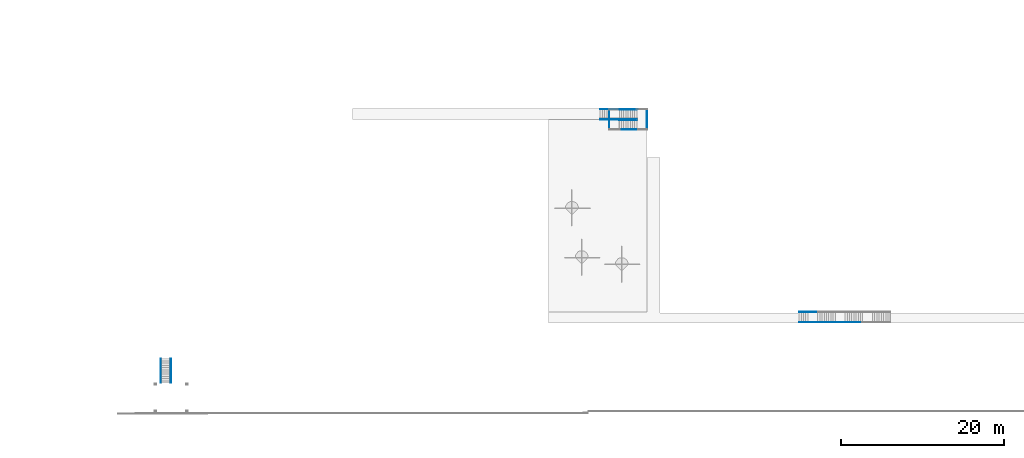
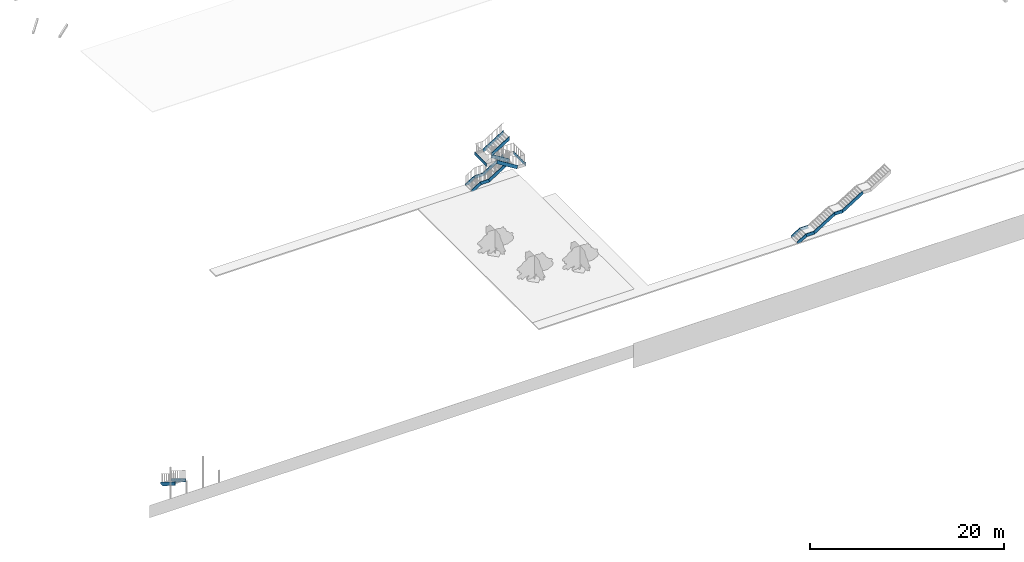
# One storey, part 1 of 16: 21 members, 3 elements without a shape of their own.
"""IFC2X3 building model written with IfcOpenShell, lengths in millimetres."""

from ifc_helpers import new_model, entity, si_unit, converted_unit, derived_unit, direction, frame, origin, place, context, subcontext, project, spatial, polyline, outline, extrude, type_object, element, aggregate, save


model = new_model("IFC2X3")

# Units and contexts
model_context = context("Model", 3, precision=0.01, world=origin(), true_north=direction((4.05803320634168e-15, -1.0)))
body_context = subcontext(model_context, "Body", "Model", "MODEL_VIEW")
ifc_project = project(units=[si_unit("LENGTHUNIT", "METRE", prefix="MILLI"), si_unit("AREAUNIT", "SQUARE_METRE"), si_unit("VOLUMEUNIT", "CUBIC_METRE"), converted_unit("PLANEANGLEUNIT", "DEGREE", entity("IfcRatioMeasure", 0.0174532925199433), si_unit("PLANEANGLEUNIT", "RADIAN"), dimensions=[0, 0, 0, 0, 0, 0, 0]), si_unit("MASSUNIT", "GRAM", prefix="KILO"), derived_unit("MASSDENSITYUNIT", [(si_unit("MASSUNIT", "GRAM", prefix="KILO"), 1), (si_unit("LENGTHUNIT", "METRE"), -3)]), si_unit("TIMEUNIT", "SECOND"), si_unit("FREQUENCYUNIT", "HERTZ"), si_unit("THERMODYNAMICTEMPERATUREUNIT", "DEGREE_CELSIUS"), derived_unit("THERMALTRANSMITTANCEUNIT", [(si_unit("MASSUNIT", "GRAM", prefix="KILO"), 1), (si_unit("THERMODYNAMICTEMPERATUREUNIT", "KELVIN"), -1), (si_unit("TIMEUNIT", "SECOND"), -3)]), derived_unit("VOLUMETRICFLOWRATEUNIT", [(si_unit("LENGTHUNIT", "METRE"), 3), (si_unit("TIMEUNIT", "SECOND"), -1)]), si_unit("ELECTRICCURRENTUNIT", "AMPERE"), si_unit("ELECTRICVOLTAGEUNIT", "VOLT"), si_unit("POWERUNIT", "WATT"), si_unit("FORCEUNIT", "NEWTON", prefix="KILO"), si_unit("ILLUMINANCEUNIT", "LUX"), si_unit("LUMINOUSFLUXUNIT", "LUMEN"), si_unit("LUMINOUSINTENSITYUNIT", "CANDELA"), derived_unit("USERDEFINED", [(si_unit("MASSUNIT", "GRAM", prefix="KILO"), -1), (si_unit("LENGTHUNIT", "METRE"), -2), (si_unit("TIMEUNIT", "SECOND"), 3), (si_unit("LUMINOUSFLUXUNIT", "LUMEN"), 1)]), derived_unit("LINEARVELOCITYUNIT", [(si_unit("LENGTHUNIT", "METRE"), 1), (si_unit("TIMEUNIT", "SECOND"), -1)]), si_unit("PRESSUREUNIT", "PASCAL"), derived_unit("USERDEFINED", [(si_unit("LENGTHUNIT", "METRE"), -2), (si_unit("MASSUNIT", "GRAM", prefix="KILO"), 1), (si_unit("TIMEUNIT", "SECOND"), -2)])], contexts=[model_context])

# Site, building, storey
site_placement = place(None, frame((927466.849349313, 583801.882853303, 0.0), z_axis=(0.0, 0.0, 1.0), x_axis=(-1.0, 0.0, 0.0)))
site = spatial("IfcSite", under=ifc_project, at=site_placement, Name="Surface", CompositionType="ELEMENT")
building_placement = place(site_placement, origin())
building = spatial("IfcBuilding", under=site, at=building_placement, CompositionType="ELEMENT")
storey_placement = place(building_placement, frame((0.0, 0.0, 42810.0)))
storey = spatial("IfcBuildingStorey", under=building, at=storey_placement, Name="Hardstand", CompositionType="ELEMENT", Elevation=42810.0)

# Stair, members
stair_1_placement = place(storey_placement, origin())
stair_1 = element("IfcStair", 1, at=stair_1_placement, inside=storey, Name="Assembled Stair:Stair", ObjectType="Assembled Stair:170mm max riser 270mm going", ShapeType="NOTDEFINED")
member_type = type_object("IfcMemberType", Name="Stringer:Stringer - 50mm Width", PredefinedType="STRINGER")
member_1_placement = place(stair_1_placement, origin())
member_1 = element("IfcMember", 2, at=member_1_placement, type_object=member_type, Name="Assembled Stair:Stair:622611 Stringer 4", ObjectType="Assembled Stair:170mm max riser 270mm going", context=body_context, shape_type="SweptSolid", body=[
    extrude(outline(polyline([(-1486.81096434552, -200.0), (1372.81422962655, -200.0), (1486.81096434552, 200.0), (-1372.81422962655, 200.0), (-1486.81096434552, -200.0)])), frame((-104429.331308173, 38178.2777512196, 2948.75), z_axis=(0.0, 1.0, 0.0), x_axis=(-0.849761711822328, 0.0, 0.527166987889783)), (0.0, 0.0, 1.0), 50.0000000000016),
])
member_2_placement = place(stair_1_placement, origin())
member_2 = element("IfcMember", 3, at=member_2_placement, type_object=member_type, Name="Assembled Stair:Stair:622611 Stringer 8", ObjectType="Assembled Stair:170mm max riser 270mm going", context=body_context, shape_type="SweptSolid", body=[
    extrude(outline(polyline([(-1486.81096434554, -200.0), (1372.81422962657, -200.0), (1486.81096434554, 200.0), (-1372.81422962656, 200.0), (-1486.81096434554, -200.0)])), frame((-101069.331308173, 38178.2777512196, 1441.25), z_axis=(0.0, 1.0, 0.0), x_axis=(-0.849761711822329, 0.0, 0.527166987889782)), (0.0, 0.0, 1.0), 50.0000000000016),
])
member_3_placement = place(stair_1_placement, origin())
member_3 = element("IfcMember", 4, at=member_3_placement, type_object=member_type, Name="Assembled Stair:Stair:622611 Stringer 10", ObjectType="Assembled Stair:170mm max riser 270mm going", context=body_context, shape_type="SweptSolid", body=[
    extrude(outline(polyline([(-408.001632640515, -200.0), (521.998367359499, -200.0), (408.001632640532, 200.0), (-521.998367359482, 200.0), (-408.001632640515, -200.0)])), frame((-102749.331308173, 38178.2777512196, 2195.0), z_axis=(0.0, 1.0, 0.0), x_axis=(-1.0, 0.0, 0.0)), (0.0, 0.0, 1.0), 50.0000000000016),
])
member_4_placement = place(stair_1_placement, origin())
member_4 = element("IfcMember", 5, at=member_4_placement, type_object=member_type, Name="Assembled Stair:Stair:622611 Stringer 11", ObjectType="Assembled Stair:170mm max riser 270mm going", context=body_context, shape_type="SweptSolid", body=[
    extrude(outline(polyline([(-518.111112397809, -322.289098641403), (-140.474277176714, -322.289098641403), (645.346618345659, 165.21090135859), (531.349883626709, 565.210901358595), (-518.111112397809, -85.8436054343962), (-518.111112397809, -322.289098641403)])), frame((-98335.9830571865, 36928.2777512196, 322.289098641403), z_axis=(0.0, 1.0, 0.0), x_axis=(-1.0, 0.0, 0.0)), (0.0, 0.0, 1.0), 50.0000000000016),
])
member_5_placement = place(stair_1_placement, origin())
member_5 = element("IfcMember", 6, at=member_5_placement, type_object=member_type, Name="Assembled Stair:Stair:622611 Stringer 12", ObjectType="Assembled Stair:170mm max riser 270mm going", context=body_context, shape_type="SweptSolid", body=[
    extrude(outline(polyline([(-518.111112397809, -322.289098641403), (-140.474277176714, -322.289098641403), (645.346618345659, 165.21090135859), (531.349883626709, 565.210901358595), (-518.111112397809, -85.8436054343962), (-518.111112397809, -322.289098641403)])), frame((-98335.9830571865, 38178.2777512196, 322.289098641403), z_axis=(0.0, 1.0, 0.0), x_axis=(-1.0, 0.0, 0.0)), (0.0, 0.0, 1.0), 50.0000000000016),
])
member_6_placement = place(stair_1_placement, origin())
member_6 = element("IfcMember", 7, at=member_6_placement, type_object=member_type, Name="Assembled Stair:Stair:622611 Stringer 13", ObjectType="Assembled Stair:170mm max riser 270mm going", context=body_context, shape_type="SweptSolid", body=[
    extrude(outline(polyline([(-408.001632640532, -200.0), (521.998367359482, -200.0), (408.001632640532, 200.0), (-521.998367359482, 200.0), (-408.001632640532, -200.0)])), frame((-99389.3313081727, 36928.2777512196, 687.5), z_axis=(0.0, 1.0, 0.0), x_axis=(1.0, 0.0, 0.0)), (0.0, 0.0, 1.0), 50.0000000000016),
])
member_7_placement = place(stair_1_placement, origin())
member_7 = element("IfcMember", 8, at=member_7_placement, type_object=member_type, Name="Assembled Stair:Stair:622611 Stringer 14", ObjectType="Assembled Stair:170mm max riser 270mm going", context=body_context, shape_type="SweptSolid", body=[
    extrude(outline(polyline([(-408.001632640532, -200.0), (521.998367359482, -200.0), (408.001632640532, 200.0), (-521.998367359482, 200.0), (-408.001632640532, -200.0)])), frame((-99389.3313081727, 38178.2777512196, 687.5), z_axis=(0.0, 1.0, 0.0), x_axis=(-1.0, 0.0, 0.0)), (0.0, 0.0, 1.0), 50.0000000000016),
])
aggregate(stair_1, [member_1, member_2, member_3, member_4, member_5, member_6, member_7])

stair_2_placement = place(storey_placement, origin())
stair_2 = element("IfcStair", 9, at=stair_2_placement, inside=storey, Name="Assembled Stair:Stair", ObjectType="Assembled Stair:170mm max riser 270mm going", ShapeType="NOTDEFINED")
member_8_placement = place(stair_2_placement, origin())
member_8 = element("IfcMember", 10, at=member_8_placement, type_object=member_type, Name="Assembled Stair:Stair:712789 Stringer 1", ObjectType="Assembled Stair:170mm max riser 270mm going", context=body_context, shape_type="SweptSolid", body=[
    extrude(outline(polyline([(-1263.81357106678, -780.966048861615), (-884.745715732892, -780.966048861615), (1706.18642893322, 818.374781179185), (1706.18642893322, 1288.44532493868), (-1263.81357106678, -544.888008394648), (-1263.81357106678, -780.966048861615)])), frame((-20919.5693282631, 43933.3127418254, 690.966048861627), z_axis=(1.0, 0.0, 0.0), x_axis=(0.0, 1.0, 0.0)), (0.0, 0.0, 1.0), 50.0000000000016),
])
member_9_placement = place(stair_2_placement, origin())
member_9 = element("IfcMember", 11, at=member_9_placement, type_object=member_type, Name="Assembled Stair:Stair:712789 Stringer 2", ObjectType="Assembled Stair:170mm max riser 270mm going", context=body_context, shape_type="SweptSolid", body=[
    extrude(outline(polyline([(-1263.81357106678, -780.966048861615), (-884.745715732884, -780.966048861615), (1706.18642893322, 818.374781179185), (1706.18642893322, 1288.44532493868), (-1263.81357106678, -544.888008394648), (-1263.81357106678, -780.966048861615)])), frame((-19669.5693282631, 43933.3127418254, 690.966048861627), z_axis=(1.0, 0.0, 0.0), x_axis=(0.0, 1.0, 0.0)), (0.0, 0.0, 1.0), 50.0000000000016),
])
aggregate(stair_2, [member_8, member_9])

stair_3_placement = place(storey_placement, origin())
stair_3 = element("IfcStair", 12, at=stair_3_placement, inside=storey, Name="Assembled Stair:Stair", ObjectType="Assembled Stair:170mm max riser 270mm going", ShapeType="NOTDEFINED")
member_10_placement = place(stair_3_placement, origin())
member_10 = element("IfcMember", 13, at=member_10_placement, type_object=member_type, Name="Assembled Stair:Stair:767068 Stringer 1", ObjectType="Assembled Stair:170mm max riser 270mm going", context=body_context, shape_type="SweptSolid", body=[
    extrude(outline(polyline([(-1471.24226843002, -200.0), (1290.16982699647, -200.0), (1538.31797514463, 200.0), (-1357.24553371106, 200.0), (-1471.24226843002, -200.0)])), frame((-76756.8209855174, 12142.1710387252, 4448.04269746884), z_axis=(0.0, 1.0, 0.0), x_axis=(-0.849761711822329, 0.0, 0.527166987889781)), (0.0, 0.0, 1.0), 49.9999999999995),
])
member_11_placement = place(stair_3_placement, origin())
member_11 = element("IfcMember", 14, at=member_11_placement, type_object=member_type, Name="Assembled Stair:Stair:767068 Stringer 2", ObjectType="Assembled Stair:170mm max riser 270mm going", context=body_context, shape_type="SweptSolid", body=[
    extrude(outline(polyline([(-1147.98441931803, -211.532982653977), (1393.90464199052, -211.532982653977), (1642.05279013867, 188.467017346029), (-899.836271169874, 188.467017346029), (-988.13674164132, 46.1319306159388), (-1147.98441931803, -211.532982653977)])), frame((-76662.5913038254, 13392.1710387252, 4403.15741459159), z_axis=(0.0, 1.0, 0.0), x_axis=(-0.84976171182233, 0.0, 0.527166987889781)), (0.0, 0.0, 1.0), 49.9999999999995),
])
member_12_placement = place(stair_3_placement, origin())
member_12 = element("IfcMember", 15, at=member_12_placement, type_object=member_type, Name="Assembled Stair:Stair:767068 Stringer 3", ObjectType="Assembled Stair:170mm max riser 270mm going", context=body_context, shape_type="SweptSolid", body=[
    extrude(outline(polyline([(-1372.81422962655, -200.0), (1486.81096434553, -200.0), (1372.81422962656, 200.0), (-1486.81096434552, 200.0), (-1372.81422962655, -200.0)])), frame((-76987.1319404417, 14592.1710387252, 2948.74999999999), z_axis=(0.0, 1.0, 0.0), x_axis=(0.849761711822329, 0.0, 0.527166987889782)), (0.0, 0.0, 1.0), 49.9999999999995),
])
member_13_placement = place(stair_3_placement, origin())
member_13 = element("IfcMember", 16, at=member_13_placement, type_object=member_type, Name="Assembled Stair:Stair:767068 Stringer 4", ObjectType="Assembled Stair:170mm max riser 270mm going", context=body_context, shape_type="SweptSolid", body=[
    extrude(outline(polyline([(-1146.87045658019, -200.0), (1395.01860472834, -200.0), (1146.87045658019, 200.0), (-1395.01860472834, 200.0), (-1146.87045658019, -200.0)])), frame((-76878.5913038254, 13342.1710387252, 3016.08539493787), z_axis=(0.0, 1.0, 0.0), x_axis=(0.84976171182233, 0.0, 0.52716698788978)), (0.0, 0.0, 1.0), 49.9999999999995),
])
member_14_placement = place(stair_3_placement, origin())
member_14 = element("IfcMember", 17, at=member_14_placement, type_object=member_type, Name="Assembled Stair:Stair:767068 Stringer 6", ObjectType="Assembled Stair:170mm max riser 270mm going", context=body_context, shape_type="SweptSolid", body=[
    extrude(outline(polyline([(-1250.0, -25.0), (1250.0, -25.0), (1200.0, 25.0), (-1200.0, 25.0), (-1250.0, -25.0)])), frame((-74573.5913038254, 13392.1710387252, 3502.5), z_axis=(0.0, 0.0, 1.0), x_axis=(0.0, 1.0, 0.0)), (0.0, 0.0, 1.0), 399.999999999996),
])
member_15_placement = place(stair_3_placement, origin())
member_15 = element("IfcMember", 18, at=member_15_placement, type_object=member_type, Name="Assembled Stair:Stair:767068 Stringer 8", ObjectType="Assembled Stair:170mm max riser 270mm going", context=body_context, shape_type="SweptSolid", body=[
    extrude(outline(polyline([(-1486.81096434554, -200.0), (1372.81422962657, -200.0), (1486.81096434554, 200.0), (-1372.81422962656, 200.0), (-1486.81096434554, -200.0)])), frame((-76770.0506672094, 12092.1710387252, 1441.25), z_axis=(0.0, 1.0, 0.0), x_axis=(-0.849761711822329, 0.0, 0.527166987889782)), (0.0, 0.0, 1.0), 49.9999999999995),
])
member_16_placement = place(stair_3_placement, origin())
member_16 = element("IfcMember", 19, at=member_16_placement, type_object=member_type, Name="Assembled Stair:Stair:767068 Stringer 9", ObjectType="Assembled Stair:170mm max riser 270mm going", context=body_context, shape_type="SweptSolid", body=[
    extrude(outline(polyline([(-1441.82225614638, -200.0), (1260.74981471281, -200.0), (1508.89796286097, 200.0), (-1327.8255214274, 200.0), (-1441.82225614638, -200.0)])), frame((-76731.8209855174, 13342.1710387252, 1417.53343820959), z_axis=(0.0, 1.0, 0.0), x_axis=(-0.84976171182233, 0.0, 0.52716698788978)), (0.0, 0.0, 1.0), 49.9999999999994),
])
member_17_placement = place(stair_3_placement, origin())
member_17 = element("IfcMember", 20, at=member_17_placement, type_object=member_type, Name="Assembled Stair:Stair:767068 Stringer 11", ObjectType="Assembled Stair:170mm max riser 270mm going", context=body_context, shape_type="SweptSolid", body=[
    extrude(outline(polyline([(-1275.0, -25.0), (1275.0, -25.0), (1225.0, 25.0), (-1225.0, 25.0), (-1275.0, -25.0)])), frame((-79183.5913038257, 13367.1710387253, 1995.0), z_axis=(0.0, 0.0, 1.0), x_axis=(0.0, -1.0, 0.0)), (0.0, 0.0, 1.0), 399.999999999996),
])
member_18_placement = place(stair_3_placement, origin())
member_18 = element("IfcMember", 21, at=member_18_placement, type_object=member_type, Name="Assembled Stair:Stair:767068 Stringer 14", ObjectType="Assembled Stair:170mm max riser 270mm going", context=body_context, shape_type="SweptSolid", body=[
    extrude(outline(polyline([(-518.111112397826, -322.289098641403), (-140.474277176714, -322.289098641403), (645.346618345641, 165.210901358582), (531.349883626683, 565.210901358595), (-518.111112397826, -85.8436054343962), (-518.111112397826, -322.289098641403)])), frame((-73986.7024162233, 12092.1710387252, 322.289098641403), z_axis=(0.0, 1.0, 0.0), x_axis=(-1.0, 0.0, 0.0)), (0.0, 0.0, 1.0), 49.9999999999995),
])
member_19_placement = place(stair_3_placement, origin())
member_19 = element("IfcMember", 22, at=member_19_placement, type_object=member_type, Name="Assembled Stair:Stair:767068 Stringer 15", ObjectType="Assembled Stair:170mm max riser 270mm going", context=body_context, shape_type="SweptSolid", body=[
    extrude(outline(polyline([(-518.111112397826, -322.289098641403), (-140.474277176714, -322.289098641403), (645.346618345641, 165.210901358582), (531.349883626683, 565.210901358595), (-518.111112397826, -85.8436054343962), (-518.111112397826, -322.289098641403)])), frame((-73986.7024162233, 13342.1710387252, 322.289098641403), z_axis=(0.0, 1.0, 0.0), x_axis=(-1.0, 0.0, 0.0)), (0.0, 0.0, 1.0), 49.9999999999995),
])
member_20_placement = place(stair_3_placement, origin())
member_20 = element("IfcMember", 23, at=member_20_placement, type_object=member_type, Name="Assembled Stair:Stair:767068 Stringer 16", ObjectType="Assembled Stair:170mm max riser 270mm going", context=body_context, shape_type="SweptSolid", body=[
    extrude(outline(polyline([(-433.001632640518, -200.0), (546.998367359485, -200.0), (433.001632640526, 200.0), (-546.998367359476, 200.0), (-433.001632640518, -200.0)])), frame((-75065.0506672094, 12092.1710387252, 687.5), z_axis=(0.0, 1.0, 0.0), x_axis=(1.0, 0.0, 0.0)), (0.0, 0.0, 1.0), 49.9999999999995),
])
member_21_placement = place(stair_3_placement, origin())
member_21 = element("IfcMember", 24, at=member_21_placement, type_object=member_type, Name="Assembled Stair:Stair:767068 Stringer 17", ObjectType="Assembled Stair:170mm max riser 270mm going", context=body_context, shape_type="SweptSolid", body=[
    extrude(outline(polyline([(-433.001632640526, -200.0), (546.998367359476, -200.0), (433.001632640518, 200.0), (-546.998367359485, 200.0), (-433.001632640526, -200.0)])), frame((-75065.0506672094, 13342.1710387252, 687.5), z_axis=(0.0, 1.0, 0.0), x_axis=(-1.0, 0.0, 0.0)), (0.0, 0.0, 1.0), 49.9999999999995),
])
aggregate(stair_3, [member_10, member_11, member_12, member_13, member_14, member_15, member_16, member_17, member_18, member_19, member_20, member_21])

save(model, "model.ifc")
